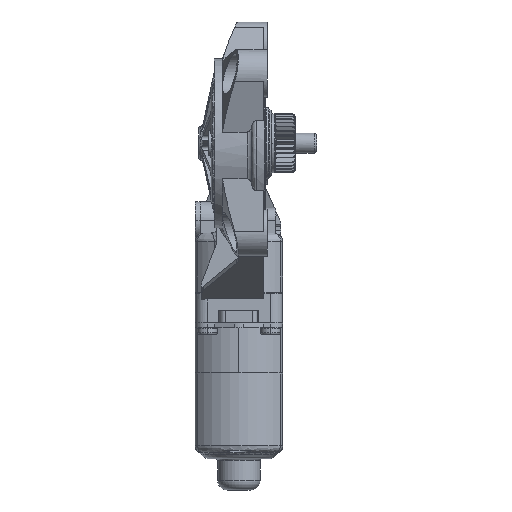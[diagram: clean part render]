
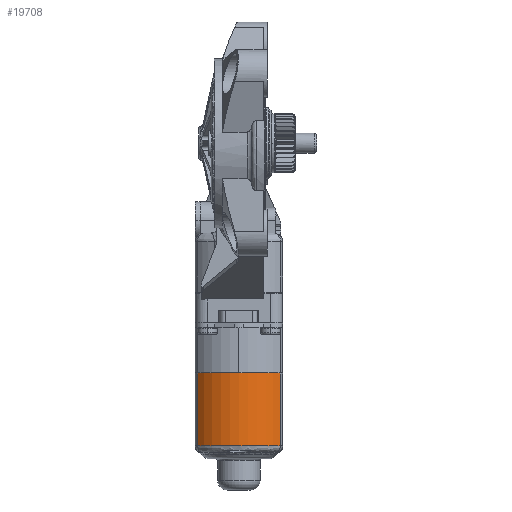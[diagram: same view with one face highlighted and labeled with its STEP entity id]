
A CAD part, front view. The second image highlights one B-rep face of the part: STEP entity #19708.
In plain terms, the highlighted cylindrical face has radius 21.9 mm (diameter 43.8 mm), a partial arc.
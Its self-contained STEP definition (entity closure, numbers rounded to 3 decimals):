
#19571=AXIS2_PLACEMENT_3D('Circle Axis2P3D',#19569,#19570,$) ;
#19595=AXIS2_PLACEMENT_3D('Circle Axis2P3D',#19593,#19594,$) ;
#19694=AXIS2_PLACEMENT_3D('Cylinder Axis2P3D',#19691,#19692,#19693) ;
#19698=AXIS2_PLACEMENT_3D('Circle Axis2P3D',#19696,#19697,$) ;
#13761=CARTESIAN_POINT('Vertex',(-16.517,-14.381,-20.1)) ;
#13785=CARTESIAN_POINT('Vertex',(-16.517,-14.381,-49.3)) ;
#13788=CARTESIAN_POINT('Line Origine',(-16.517,-14.381,-31.5)) ;
#15700=CARTESIAN_POINT('Vertex',(16.517,-14.381,-20.1)) ;
#15720=CARTESIAN_POINT('Line Origine',(16.517,-14.381,-31.5)) ;
#15724=CARTESIAN_POINT('Vertex',(16.517,-14.381,-49.3)) ;
#19569=CARTESIAN_POINT('Axis2P3D Location',(0.,0.,-20.1)) ;
#19573=CARTESIAN_POINT('Vertex',(0.,-21.9,-20.1)) ;
#19593=CARTESIAN_POINT('Axis2P3D Location',(0.,0.,-20.1)) ;
#19691=CARTESIAN_POINT('Axis2P3D Location',(0.,0.,-52.)) ;
#19696=CARTESIAN_POINT('Axis2P3D Location',(0.,0.,-49.3)) ;
#13789=DIRECTION('Vector Direction',(0.,0.,-1.)) ;
#15721=DIRECTION('Vector Direction',(0.,0.,1.)) ;
#19570=DIRECTION('Axis2P3D Direction',(0.,0.,-1.)) ;
#19594=DIRECTION('Axis2P3D Direction',(0.,0.,-1.)) ;
#19692=DIRECTION('Axis2P3D Direction',(0.,0.,-1.)) ;
#19693=DIRECTION('Axis2P3D XDirection',(1.,0.,0.)) ;
#19697=DIRECTION('Axis2P3D Direction',(0.,0.,-1.)) ;
#13790=VECTOR('Line Direction',#13789,1.) ;
#15722=VECTOR('Line Direction',#15721,1.) ;
#19702=ORIENTED_EDGE('',*,*,#19575,.T.) ;
#19703=ORIENTED_EDGE('',*,*,#13792,.T.) ;
#19704=ORIENTED_EDGE('',*,*,#19700,.F.) ;
#19705=ORIENTED_EDGE('',*,*,#15726,.T.) ;
#19706=ORIENTED_EDGE('',*,*,#19597,.T.) ;
#19708=ADVANCED_FACE('PartBody',(#19707),#19695,.T.) ;
#19572=CIRCLE('generated circle',#19571,21.9) ;
#19596=CIRCLE('generated circle',#19595,21.9) ;
#19699=CIRCLE('generated circle',#19698,21.9) ;
#19695=CYLINDRICAL_SURFACE('generated cylinder',#19694,21.9) ;
#13792=EDGE_CURVE('',#13762,#13786,#13791,.T.) ;
#15726=EDGE_CURVE('',#15725,#15701,#15723,.T.) ;
#19575=EDGE_CURVE('',#19574,#13762,#19572,.T.) ;
#19597=EDGE_CURVE('',#15701,#19574,#19596,.T.) ;
#19700=EDGE_CURVE('',#15725,#13786,#19699,.T.) ;
#19701=EDGE_LOOP('',(#19702,#19703,#19704,#19705,#19706)) ;
#19707=FACE_OUTER_BOUND('',#19701,.T.) ;
#13791=LINE('Line',#13788,#13790) ;
#15723=LINE('Line',#15720,#15722) ;
#13762=VERTEX_POINT('',#13761) ;
#13786=VERTEX_POINT('',#13785) ;
#15701=VERTEX_POINT('',#15700) ;
#15725=VERTEX_POINT('',#15724) ;
#19574=VERTEX_POINT('',#19573) ;
